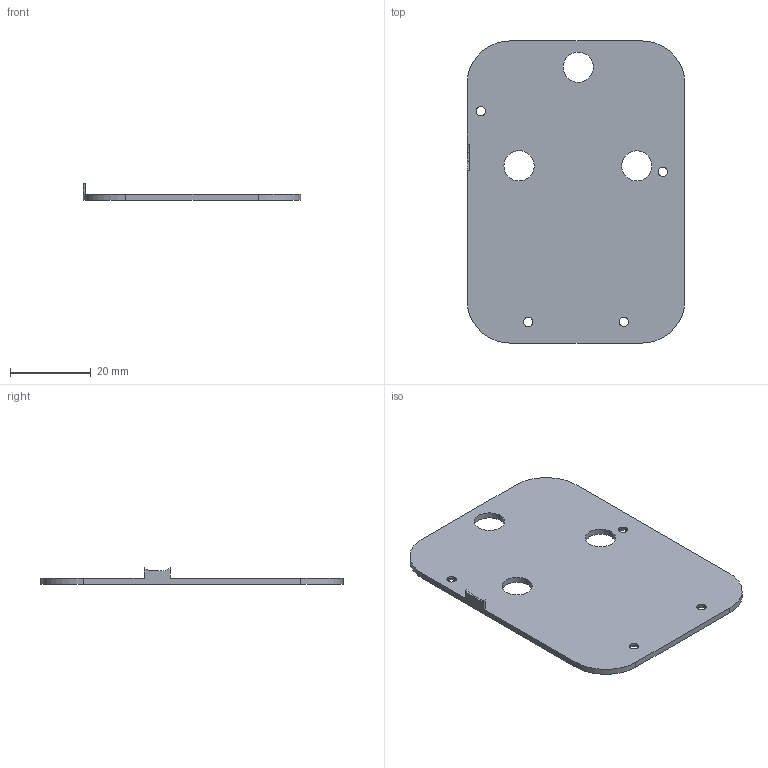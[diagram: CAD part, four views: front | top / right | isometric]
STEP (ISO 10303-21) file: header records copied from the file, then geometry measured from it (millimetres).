
FILE_DESCRIPTION(/* description */ (''),/* implementation_level */ '2;1');
FILE_NAME(/* name */ 'Bottom Cover.step',/* time_stamp */ '2026-06-06T11:15:52+05:30',/* author */ (''),/* organization */ (''),/* preprocessor_version */ 'ST-DEVELOPER v20.1',/* originating_system */ 'Autodesk Translation Framework v15.8.0.0',/* authorisation */ '');
FILE_SCHEMA (('AUTOMOTIVE_DESIGN { 1 0 10303 214 3 1 1 }'));
Length unit declared in the file: millimetre
Products named in the file (1): Bottom Cover
Bounding box: 54 x 75 x 4.03 mm (x, y, z)
Volume: 5688.1 mm3; surface area: 8168.2 mm2
Topology: 1 solids, 1 shells, 31 faces, 75 edges, 50 vertices
Faces by surface type: cylinder 17, plane 14
Full cylindrical faces by diameter (mm): 2.3 x4, 3.75 x4, 7.5 x3
Entity records: 991 total; most frequent: DIRECTION 173, CARTESIAN_POINT 157, ORIENTED_EDGE 150, EDGE_CURVE 75, AXIS2_PLACEMENT_3D 66, VERTEX_POINT 50, EDGE_LOOP 49, LINE 41
